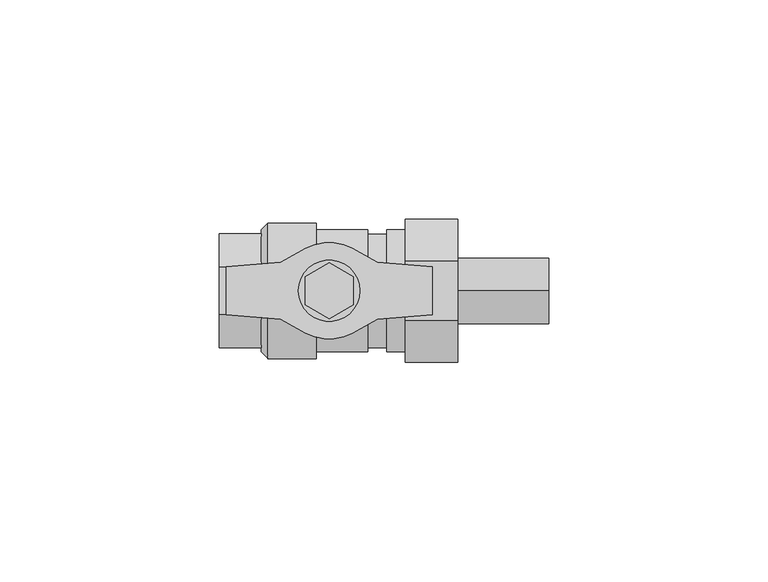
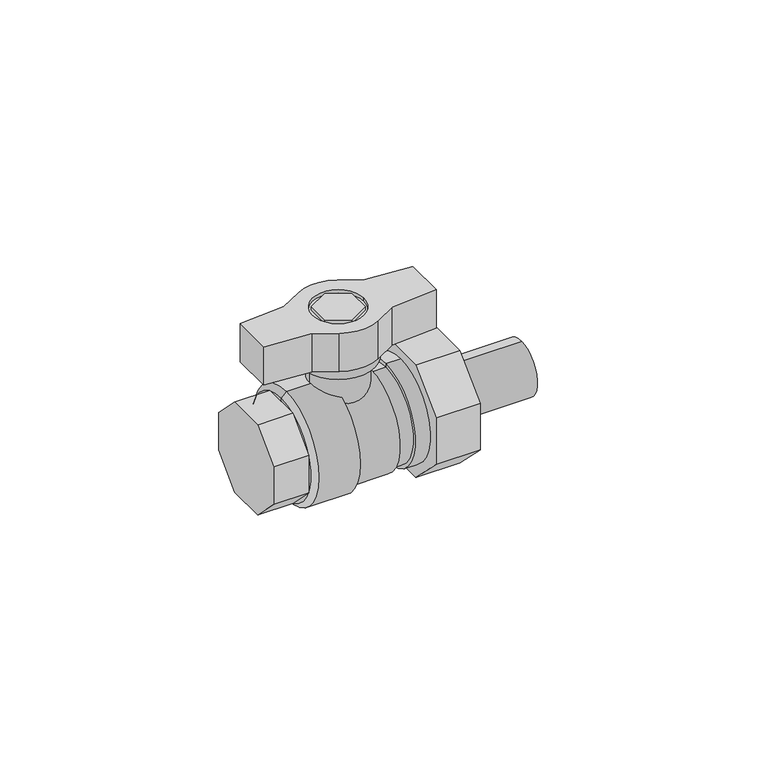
"""IFC4 building model written with IfcOpenShell, lengths in millimetres: valve geometry, HCP_Построения_BVR-F : BVR-F."""

from ifc_helpers import new_model, si_unit, frame, origin, place, context, project, spatial, polyline, circle_curve, outline, extrude, source, transform, mapped, element, save
from ifc_brep_helpers import plane_surface, cylinder_surface, revolved_surface, advanced_brep


def valve_9cb9feea(model_context):
    return source(origin(), model_context, "Body", "SolidModel", [
        extrude(outline(polyline([(-6.7309704, 16.25), (6.7309704, 16.25), (16.25, 6.7309704), (16.25, -6.7309704), (6.7309704, -16.25), (-6.7309704, -16.25), (-16.25, -6.7309704), (-16.25, 6.7309704), (-6.7309704, 16.25)])), frame((17.3, 0.0, 0.0), z_axis=(1.0, 0.0, 0.0), x_axis=(0.0, 1.0, 0.0)), (0.0, 0.0, 1.0), 12.0),
        extrude(outline(polyline([(0.0, -6.350853), (-5.5, -3.1754265), (-5.5, 3.1754265), (0.0, 6.350853), (5.5, 3.1754265), (5.5, -3.1754265), (0.0, -6.350853)])), frame((0.0, 0.0, 34.0), z_axis=(0.0, 0.0, 1.0), x_axis=(1.0, 0.0, 0.0)), (0.0, 0.0, 1.0), 1.0),
        advanced_brep(
        [(5.3062787, 9.6355283, 35.0), (-5.3062787, 9.6355283, 35.0), (-11.0, 6.5, 35.0), (-23.5, 5.5, 35.0), (-23.5, -5.5, 35.0), (-11.0, -6.5, 35.0), (-5.3062787, -9.6355283, 35.0), (5.3062787, -9.6355283, 35.0), (11.0, -6.5, 35.0), (23.5, -5.5, 35.0), (23.5, 5.5, 35.0), (11.0, 6.5, 35.0), (-7.0, 0.0, 35.0), (7.0, 0.0, 35.0), (5.3062787, 9.6355283, 24.0), (11.0, 6.5, 24.0), (23.5, 5.5, 24.0), (23.5, -5.5, 24.0), (11.0, -6.5, 24.0), (5.3062787, -9.6355283, 24.0), (-5.3062787, -9.6355283, 24.0), (-11.0, -6.5, 24.0), (-23.5, -5.5, 24.0), (-23.5, 5.5, 24.0), (-11.0, 6.5, 24.0), (-5.3062787, 9.6355283, 24.0), (10.0, 0.0, 24.0), (-10.0, 0.0, 24.0), (10.0, 0.0, 21.0), (-10.0, 0.0, 21.0), (7.0, 0.0, 34.0), (-7.0, 0.0, 34.0)],
        [
            (0, 1, circle_curve(frame((0.0, 0.0, 35.0), z_axis=(0.0, 0.0, 1.0), x_axis=(-1.0000000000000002, 0.0, 0.0)), 11.0)),
            (1, 2),
            (2, 3),
            (3, 4),
            (4, 5),
            (5, 6),
            (6, 7, circle_curve(frame((0.0, 0.0, 35.0), z_axis=(0.0, 0.0, 1.0), x_axis=(-1.0000000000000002, 0.0, 0.0)), 11.0)),
            (7, 8),
            (8, 9),
            (9, 10),
            (10, 11),
            (11, 0),
            (12, 13, circle_curve(frame((0.0, 0.0, 35.0), z_axis=(0.0, 0.0, -1.0), x_axis=(-1.0000000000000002, 0.0, 0.0)), 7.0)),
            (13, 12, circle_curve(frame((0.0, 0.0, 35.0), z_axis=(0.0, 0.0, -1.0), x_axis=(-1.0000000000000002, 0.0, 0.0)), 7.0)),
            (14, 15),
            (15, 16),
            (16, 17),
            (17, 18),
            (18, 19),
            (19, 20, circle_curve(frame((0.0, 0.0, 24.0), z_axis=(0.0, 0.0, -1.0), x_axis=(-1.0000000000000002, 0.0, 0.0)), 11.0)),
            (20, 21),
            (21, 22),
            (22, 23),
            (23, 24),
            (24, 25),
            (25, 14, circle_curve(frame((0.0, 0.0, 24.0), z_axis=(0.0, 0.0, -1.0), x_axis=(-1.0000000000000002, 0.0, 0.0)), 11.0)),
            (26, 27, circle_curve(frame((0.0, 0.0, 24.0), z_axis=(0.0, 0.0, 1.0), x_axis=(-1.0000000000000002, 0.0, 0.0)), 10.0)),
            (27, 26, circle_curve(frame((0.0, 0.0, 24.0), z_axis=(0.0, 0.0, 1.0), x_axis=(-1.0000000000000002, 0.0, 0.0)), 10.0)),
            (10, 16),
            (15, 11),
            (9, 17),
            (8, 18),
            (7, 19),
            (6, 20),
            (4, 22),
            (21, 5),
            (3, 23),
            (2, 24),
            (0, 14),
            (25, 1),
            (28, 29, circle_curve(frame((0.0, 0.0, 21.0), z_axis=(0.0, 0.0, -1.0), x_axis=(-1.0000000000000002, 0.0, 0.0)), 10.0)),
            (29, 28, circle_curve(frame((0.0, 0.0, 21.0), z_axis=(0.0, 0.0, -1.0), x_axis=(-1.0000000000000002, 0.0, 0.0)), 10.0)),
            (28, 26),
            (27, 29),
            (30, 31, circle_curve(frame((0.0, 0.0, 34.0), z_axis=(0.0, 0.0, 1.0), x_axis=(-1.0000000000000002, 0.0, 0.0)), 7.0)),
            (31, 30, circle_curve(frame((0.0, 0.0, 34.0), z_axis=(0.0, 0.0, 1.0), x_axis=(-1.0000000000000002, 0.0, 0.0)), 7.0)),
            (31, 12),
            (13, 30),
        ],
        [
            plane_surface(frame((5.3062787, 9.6355283, 35.0), z_axis=(0.0, 0.0, 1.0000000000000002), x_axis=(0.8759571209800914, -0.4823889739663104, 0.0))),
            plane_surface(frame((5.3062787, 9.6355283, 24.0), z_axis=(0.0, 0.0, -1.0000000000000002), x_axis=(-0.8759571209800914, 0.4823889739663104, 0.0))),
            plane_surface(frame((11.0, 6.5, 35.0), z_axis=(0.07974522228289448, 0.9968152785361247, 0.0), x_axis=(0.0, 0.0, -1.0))),
            plane_surface(frame((23.5, 5.5, 35.0), z_axis=(1.0, 0.0, 0.0), x_axis=(0.0, 0.0, -1.0))),
            plane_surface(frame((23.5, -5.5, 35.0), z_axis=(0.07974522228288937, -0.9968152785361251, 0.0), x_axis=(0.0, 0.0, -1.0))),
            plane_surface(frame((11.0, -6.5, 35.0), z_axis=(0.48238897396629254, -0.8759571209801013, 0.0), x_axis=(0.0, 0.0, -1.0))),
            cylinder_surface(frame((0.0, 0.0, 24.0), z_axis=(0.0, 0.0, 1.0000000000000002), x_axis=(-1.0000000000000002, 0.0, 0.0)), 11.0),
            plane_surface(frame((-11.0, -6.5, 35.0), z_axis=(-0.07974522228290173, -0.9968152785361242, 0.0), x_axis=(0.0, 0.0, -1.0))),
            plane_surface(frame((-23.5, -5.5, 35.0), z_axis=(-1.0, 0.0, 0.0), x_axis=(0.0, 0.0, -1.0))),
            plane_surface(frame((-23.5, 5.5, 35.0), z_axis=(-0.07974522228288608, 0.9968152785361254, 0.0), x_axis=(0.0, 0.0, -1.0))),
            plane_surface(frame((5.3062787, 9.6355283, 35.0), z_axis=(0.4823889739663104, 0.8759571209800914, 0.0), x_axis=(0.0, 0.0, -1.0))),
            plane_surface(frame((-5.3062787, -9.6355283, 35.0), z_axis=(-0.48238897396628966, -0.8759571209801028, 0.0), x_axis=(0.0, 0.0, -1.0))),
            plane_surface(frame((-11.0, 6.5, 35.0), z_axis=(-0.48238897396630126, 0.8759571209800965, 0.0), x_axis=(0.0, 0.0, -1.0))),
            plane_surface(frame((-10.0, 0.0, 21.0), z_axis=(0.0, 0.0, -1.0), x_axis=(0.0, -1.0, 0.0))),
            cylinder_surface(frame((0.0, 0.0, 21.0), z_axis=(0.0, 0.0, 1.0000000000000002), x_axis=(-1.0000000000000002, 0.0, 0.0)), 10.0),
            plane_surface(frame((-7.0, 0.0, 34.0), z_axis=(0.0, 0.0, 1.0), x_axis=(0.0, -1.0, 0.0))),
            revolved_surface(polyline([(-7.000000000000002, 0.0, 35.0), (-7.000000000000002, 0.0, 34.0)]), (0.0, 0.0, 34.0), (0.0, 0.0, 1.0000000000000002)),
        ],
        [
            (0, [[1, 2, 3, 4, 5, 6, 7, 8, 9, 10, 11, 12], [13, 14]]),
            (1, [[15, 16, 17, 18, 19, 20, 21, 22, 23, 24, 25, 26], [27, 28]]),
            (2, [[29, -16, 30, -11]]),
            (3, [[31, -17, -29, -10]]),
            (4, [[32, -18, -31, -9]]),
            (5, [[33, -19, -32, -8]]),
            (6, [[34, -20, -33, -7]]),
            (7, [[35, -22, 36, -5]]),
            (8, [[37, -23, -35, -4]]),
            (9, [[38, -24, -37, -3]]),
            (6, [[39, -26, 40, -1]]),
            (10, [[-30, -15, -39, -12]]),
            (11, [[-36, -21, -34, -6]]),
            (12, [[-40, -25, -38, -2]]),
            (13, [[41, 42]]),
            (14, [[43, -28, 44, -41]]),
            (14, [[-44, -27, -43, -42]]),
            (15, [[45, 46]]),
            (16, [[47, -14, 48, -46]]),
            (16, [[-48, -13, -47, -45]]),
        ],
    ),
        extrude(outline(polyline([(-5.3847763, 13.0), (5.3847763, 13.0), (13.0, 5.3847763), (13.0, -5.3847763), (5.3847763, -13.0), (-5.3847763, -13.0), (-13.0, -5.3847763), (-13.0, 5.3847763), (-5.3847763, 13.0)])), frame((-25.0, 0.0, 0.0), z_axis=(1.0, 0.0, 0.0), x_axis=(0.0, 1.0, 0.0)), (0.0, 0.0, 1.0), 9.5),
        advanced_brep(
        [(50.0, 0.0, -7.5), (50.0, 0.0, 0.0), (50.0, 0.0, 7.5), (13.1, 0.0, -14.0), (17.3, 0.0, -14.0), (17.3, 0.0, 14.0), (13.1, 0.0, 14.0), (-14.0316007, 0.0, -15.5), (-2.9, 0.0, -15.5), (-2.9, 0.0, 15.5), (-14.0316007, 0.0, 15.5), (-2.9, 0.0, -14.0), (8.8, 0.0, -14.0), (8.8, 0.0, 14.0), (-2.9, 0.0, 14.0), (-15.5, 0.0, 0.0), (-15.5, 0.0, -14.0), (-15.5, 0.0, 14.0), (17.3, 0.0, -7.5), (17.3, 0.0, 7.5), (8.8, 0.0, -13.0), (8.8, 0.0, 13.0), (13.1, 0.0, -13.0), (13.1, 0.0, 13.0)],
        [
            (0, 1),
            (1, 2),
            (2, 0, circle_curve(frame((50.0, 0.0, 0.0), z_axis=(1.0, 0.0, 0.0), x_axis=(0.0, 0.0, 1.0)), 7.5)),
            (0, 2, circle_curve(frame((50.0, 0.0, 0.0), z_axis=(1.0, 0.0, 0.0), x_axis=(0.0, 0.0, 1.0)), 7.5)),
            (3, 4),
            (4, 5, circle_curve(frame((17.3, 0.0, 0.0), z_axis=(-1.0, 0.0, 0.0), x_axis=(0.0, 0.0, 1.0)), 14.0)),
            (5, 6),
            (6, 3, circle_curve(frame((13.1, 0.0, 0.0), z_axis=(1.0, 0.0, 0.0), x_axis=(0.0, 0.0, 1.0)), 14.0)),
            (5, 4, circle_curve(frame((17.3, 0.0, 0.0), z_axis=(-1.0, 0.0, 0.0), x_axis=(0.0, 0.0, 1.0)), 14.0)),
            (3, 6, circle_curve(frame((13.1, 0.0, 0.0), z_axis=(1.0, 0.0, 0.0), x_axis=(0.0, 0.0, 1.0)), 14.0)),
            (7, 8),
            (8, 9, circle_curve(frame((-2.9, 0.0, 0.0), z_axis=(-1.0, 0.0, 0.0), x_axis=(0.0, 0.0, 1.0)), 15.5)),
            (9, 10),
            (10, 7, circle_curve(frame((-14.0316007, 0.0, 0.0), z_axis=(1.0, 0.0, 0.0), x_axis=(0.0, 0.0, 1.0)), 15.5)),
            (9, 8, circle_curve(frame((-2.9, 0.0, 0.0), z_axis=(-1.0, 0.0, 0.0), x_axis=(0.0, 0.0, 1.0)), 15.5)),
            (7, 10, circle_curve(frame((-14.0316007, 0.0, 0.0), z_axis=(1.0, 0.0, 0.0), x_axis=(0.0, 0.0, 1.0)), 15.5)),
            (11, 12),
            (12, 13, circle_curve(frame((8.8, 0.0, 0.0), z_axis=(-1.0, 0.0, 0.0), x_axis=(0.0, 0.0, 1.0)), 14.0)),
            (13, 14),
            (14, 11, circle_curve(frame((-2.9, 0.0, 0.0), z_axis=(1.0, 0.0, 0.0), x_axis=(0.0, 0.0, 1.0)), 14.0)),
            (13, 12, circle_curve(frame((8.8, 0.0, 0.0), z_axis=(-1.0, 0.0, 0.0), x_axis=(0.0, 0.0, 1.0)), 14.0)),
            (11, 14, circle_curve(frame((-2.9, 0.0, 0.0), z_axis=(1.0, 0.0, 0.0), x_axis=(0.0, 0.0, 1.0)), 14.0)),
            (15, 16),
            (16, 17, circle_curve(frame((-15.5, 0.0, 0.0), z_axis=(-1.0, 0.0, 0.0), x_axis=(0.0, 0.0, 1.0)), 14.0)),
            (17, 15),
            (17, 16, circle_curve(frame((-15.5, 0.0, 0.0), z_axis=(-1.0, 0.0, 0.0), x_axis=(0.0, 0.0, 1.0)), 14.0)),
            (18, 0),
            (2, 19),
            (19, 18, circle_curve(frame((17.3, 0.0, 0.0), z_axis=(1.0, 0.0, 0.0), x_axis=(0.0, 0.0, 1.0)), 7.5)),
            (18, 19, circle_curve(frame((17.3, 0.0, 0.0), z_axis=(1.0, 0.0, 0.0), x_axis=(0.0, 0.0, 1.0)), 7.5)),
            (4, 18),
            (19, 5),
            (8, 11),
            (14, 9),
            (12, 20),
            (20, 21, circle_curve(frame((8.8, 0.0, 0.0), z_axis=(-1.0, 0.0, 0.0), x_axis=(0.0, 0.0, 1.0)), 13.0)),
            (21, 13),
            (21, 20, circle_curve(frame((8.8, 0.0, 0.0), z_axis=(-1.0, 0.0, 0.0), x_axis=(0.0, 0.0, 1.0)), 13.0)),
            (22, 3),
            (6, 23),
            (23, 22, circle_curve(frame((13.1, 0.0, 0.0), z_axis=(1.0, 0.0, 0.0), x_axis=(0.0, 0.0, 1.0)), 13.0)),
            (22, 23, circle_curve(frame((13.1, 0.0, 0.0), z_axis=(1.0, 0.0, 0.0), x_axis=(0.0, 0.0, 1.0)), 13.0)),
            (20, 22),
            (23, 21),
            (16, 7),
            (10, 17),
        ],
        [
            plane_surface(frame((50.0, 0.0, 0.0), z_axis=(1.0, 0.0, 0.0), x_axis=(0.0, 0.0, 1.0))),
            cylinder_surface(frame((67.849015, 0.0, 0.0), z_axis=(-1.0, 0.0, 0.0), x_axis=(0.0, 0.0, 1.0)), 14.0),
            cylinder_surface(frame((67.849015, 0.0, 0.0), z_axis=(-1.0, 0.0, 0.0), x_axis=(0.0, 0.0, 1.0)), 15.5),
            plane_surface(frame((-15.5, 0.0, 0.0), z_axis=(-1.0, 0.0, 0.0), x_axis=(0.0, 0.0, 1.0))),
            cylinder_surface(frame((67.849015, 0.0, 0.0), z_axis=(-1.0, 0.0, 0.0), x_axis=(0.0, 0.0, 1.0)), 7.5),
            plane_surface(frame((17.3, 0.0, 0.0), z_axis=(1.0, 0.0, 0.0), x_axis=(0.0, 0.0, 1.0))),
            plane_surface(frame((-2.9, 0.0, 0.0), z_axis=(1.0, 0.0, 0.0), x_axis=(0.0, 0.0, 1.0))),
            plane_surface(frame((8.8, 0.0, 0.0), z_axis=(1.0, 0.0, 0.0), x_axis=(0.0, 0.0, 1.0))),
            plane_surface(frame((13.1, 0.0, 0.0), z_axis=(-1.0, 0.0, 0.0), x_axis=(0.0, 0.0, 1.0))),
            cylinder_surface(frame((67.849015, 0.0, 0.0), z_axis=(-1.0, 0.0, 0.0), x_axis=(0.0, 0.0, 1.0)), 13.0),
            revolved_surface(polyline([(-14.0316007, 0.0, 15.5), (-15.5, 0.0, 14.0)]), (67.849015, 0.0, 0.0), (-1.0, 0.0, 0.0)),
        ],
        [
            (0, [[1, 2, 3]]),
            (0, [[-2, -1, 4]]),
            (1, [[5, 6, 7, 8]]),
            (1, [[-7, 9, -5, 10]]),
            (2, [[11, 12, 13, 14]]),
            (2, [[-13, 15, -11, 16]]),
            (1, [[17, 18, 19, 20]]),
            (1, [[-19, 21, -17, 22]]),
            (3, [[23, 24, 25]]),
            (3, [[-25, 26, -23]]),
            (4, [[27, -3, 28, 29]]),
            (4, [[-28, -4, -27, 30]]),
            (5, [[31, -29, 32, -6]]),
            (5, [[-32, -30, -31, -9]]),
            (6, [[33, -20, 34, -12]]),
            (6, [[-34, -22, -33, -15]]),
            (7, [[35, 36, 37, -18]]),
            (7, [[-37, 38, -35, -21]]),
            (8, [[39, -8, 40, 41]]),
            (8, [[-40, -10, -39, 42]]),
            (9, [[43, -41, 44, -36]]),
            (9, [[-44, -42, -43, -38]]),
            (10, [[45, -14, 46, -24]]),
            (10, [[-46, -16, -45, -26]]),
        ],
    ),
        advanced_brep(
        [(-7.7, 0.0, 0.0), (0.0, 0.0, 0.0), (7.7, 0.0, 0.0), (-7.7, 0.0, 21.0), (7.7, 0.0, 21.0), (0.0, 0.0, 21.0)],
        [
            (0, 1),
            (1, 2),
            (2, 0, circle_curve(frame((0.0, 0.0, 0.0), z_axis=(0.0, 0.0, -1.0), x_axis=(1.0, 0.0, 0.0)), 7.7)),
            (0, 2, circle_curve(frame((0.0, 0.0, 0.0), z_axis=(0.0, 0.0, -1.0), x_axis=(1.0, 0.0, 0.0)), 7.7)),
            (3, 0),
            (2, 4),
            (4, 3, circle_curve(frame((0.0, 0.0, 21.0), z_axis=(0.0, 0.0, -1.0), x_axis=(1.0, 0.0, 0.0)), 7.7)),
            (3, 4, circle_curve(frame((0.0, 0.0, 21.0), z_axis=(0.0, 0.0, -1.0), x_axis=(1.0, 0.0, 0.0)), 7.7)),
            (5, 3),
            (4, 5),
        ],
        [
            plane_surface(frame((0.0, 0.0, 0.0), z_axis=(0.0, 0.0, -1.0), x_axis=(1.0, 0.0, 0.0))),
            cylinder_surface(frame((0.0, 0.0, 81.402677), z_axis=(0.0, 0.0, 1.0), x_axis=(1.0, 0.0, 0.0)), 7.7),
            plane_surface(frame((0.0, 0.0, 21.0), z_axis=(0.0, 0.0, 1.0), x_axis=(1.0, 0.0, 0.0))),
        ],
        [
            (0, [[1, 2, 3]]),
            (0, [[-2, -1, 4]]),
            (1, [[5, -3, 6, 7]]),
            (1, [[-6, -4, -5, 8]]),
            (2, [[9, -7, 10]]),
            (2, [[-10, -8, -9]]),
        ],
    ),
    ])


if __name__ == "__main__":
    model = new_model("IFC4")
    model_context = context("Model", 3, world=origin())
    ifc_project = project(units=[si_unit("LENGTHUNIT", "METRE", prefix="MILLI")], contexts=[model_context])
    site = spatial("IfcSite", under=ifc_project)
    building = spatial("IfcBuilding", under=site)
    placement = place(None, origin())
    valve_shape = valve_9cb9feea(model_context)
    element("IfcValve", 1, ObjectType="HCP_Построения_BVR-F : BVR-F", at=placement, inside=building, context=model_context, shape_type="MappedRepresentation", body=[
        mapped(valve_shape, transform((0.0, 0.0, 0.0), x_axis=(1.0, 0.0, 0.0), y_axis=(0.0, 1.0, 0.0), z_axis=(0.0, 0.0, 1.0))),
    ])
    save(model, "model.ifc")
